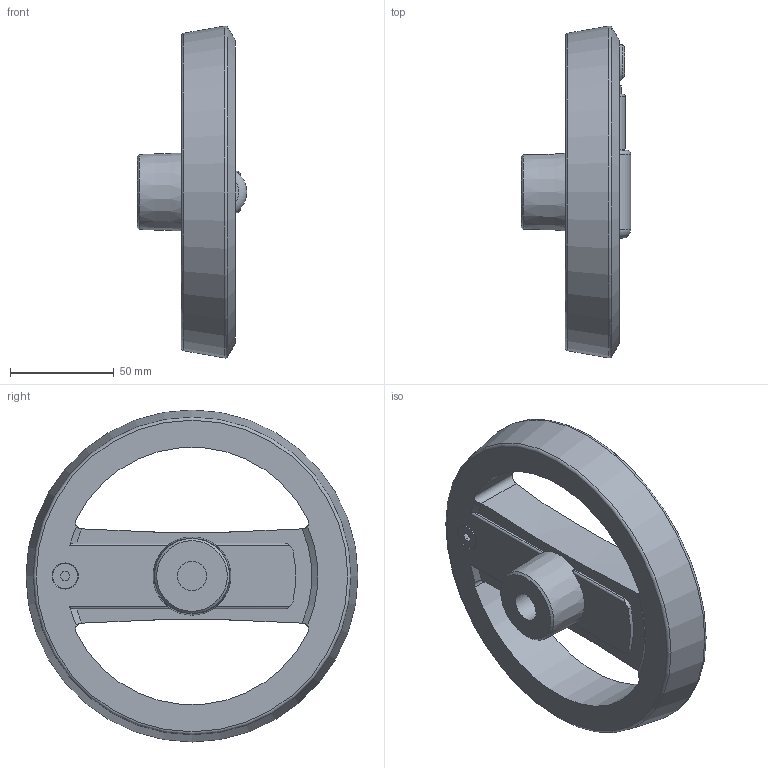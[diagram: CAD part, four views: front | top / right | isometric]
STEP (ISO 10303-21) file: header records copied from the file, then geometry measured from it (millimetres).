
FILE_DESCRIPTION( ( 'STEP AP203' ), '1' );
FILE_NAME( 'C:/Temp/Ganter_Step_05_03_2020/data/1_3/gn_924_7/gn_924_7_b/Handwheel with retractable handle GN 924.7-160-B14-R-SR (unactivated).stp', '2020-03-05T10:41:38', ( 'License CC BY-ND 4.0' ), ( 'CADENAS' ), ' ', 'PARTsolutions', ' ' );
FILE_SCHEMA( ( 'CONFIG_CONTROL_DESIGN' ) );
Length unit declared in the file: millimetre
Products named in the file (3): Handwheel with retractable handle GN 924.7-160-B14-R-SR (unactivated); _Umleggriff-Handrad GN 924.7-160-B14-R-SR-1; _Umleggriff-Handrad GN 924.7-160-B14-R-SR (0)-2
Assembly tree (2 placements, depth 2):
  Handwheel with retractable handle GN 924.7-160-B14-R-SR (unactivated)
    _Umleggriff-Handrad GN 924.7-160-B14-R-SR-1
    _Umleggriff-Handrad GN 924.7-160-B14-R-SR (0)-2
Bounding box: 52.7 x 159.68 x 159.68 mm (x, y, z)
Volume: 294107.7 mm3; surface area: 65935 mm2
Topology: 2 solids, 2 shells, 108 faces, 278 edges, 179 vertices
Faces by surface type: plane 44, cylinder 42, cone 12, torus 8, sphere 2
Full cylindrical faces by diameter (mm): 4 x4, 5 x1, 8 x1, 12 x1, 14 x1, 15 x1, 18.5 x1, 20 x1, 24 x2, 25.6 x1
Entity records: 3572 total; most frequent: CARTESIAN_POINT 996, DIRECTION 516, ORIENTED_EDGE 478, EDGE_CURVE 239, AXIS2_PLACEMENT_3D 217, VERTEX_POINT 173, EDGE_LOOP 151, FACE_OUTER_BOUND 129
